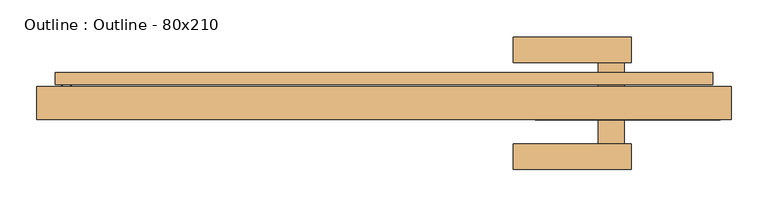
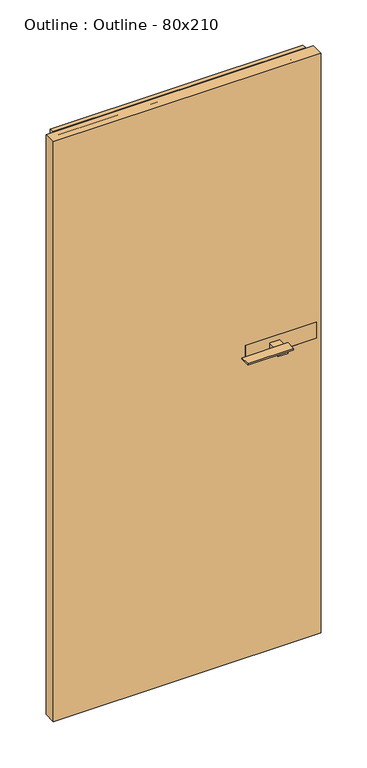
"""IFC4 building model written with IfcOpenShell, lengths in millimetres: door geometry, Outline : Outline - 80x210."""

from ifc_helpers import new_model, si_unit, point, frame, frame_2d, origin, origin_with_axes, place, context, project, spatial, polyline, circle_curve, ellipse_curve, trimmed, segment, composite_curve, outline, extrude, faceted_brep, source, transform, mapped, element, save
from ifc_brep_helpers import plane_surface, cylinder_surface, revolved_surface, advanced_brep


def outline_outline_80x210_fbc687eb(model_context):
    return source(origin(), model_context, "Body", "SolidModel", [
        faceted_brep([(-465.050859, -69.0000057, 0.0), (474.9491774, -69.0000057, 0.0), (474.9491774, -114.0000057, 0.0), (-465.050859, -114.0000057, 0.0), (-465.050859, -69.0000057, 2153.4715377), (474.9491774, -69.0000057, 2153.4715377), (209.9491774, -69.0000057, 1160.0), (209.9491774, -69.0000057, 1100.0), (459.9491774, -69.0000057, 1100.0), (459.9491774, -69.0000057, 1160.0), (474.9491774, -114.0000057, 2153.4715377), (-465.050859, -114.0000057, 2153.4715377), (459.9491774, -114.0000057, 1160.0), (459.9491774, -114.0000057, 1100.0), (209.9491774, -114.0000057, 1100.0), (209.9491774, -114.0000057, 1160.0), (459.9491774, -109.0000057, 1160.0), (459.9491774, -109.0000057, 1100.0), (209.9491774, -109.0000057, 1100.0), (209.9491774, -109.0000057, 1160.0), (209.9491774, -74.0000057, 1160.0), (209.9491774, -74.0000057, 1100.0), (459.9491774, -74.0000057, 1100.0), (459.9491774, -74.0000057, 1160.0)], [[[0, 1, 2, 3]], [[4, 5, 1, 0], [6, 7, 8, 9]], [[5, 10, 2, 1]], [[10, 11, 3, 2], [12, 13, 14, 15]], [[11, 4, 0, 3]], [[16, 17, 13, 12]], [[17, 18, 14, 13]], [[18, 19, 15, 14]], [[19, 16, 12, 15]], [[20, 21, 7, 6]], [[21, 22, 8, 7]], [[22, 23, 9, 8]], [[23, 20, 6, 9]], [[16, 19, 18, 17]], [[20, 23, 22, 21]], [[4, 11, 10, 5]]]),
        extrude(outline(composite_curve([segment(polyline([(-430.3008226, -63.4028961), (-431.202152, -63.4028961)]), True, "CONTINUOUS"), segment(trimmed(circle_curve(frame_2d((-431.202152, -63.1028961)), 0.3), [point((-431.202152, -63.4028961))], [point((-431.202152, -62.8028961))], False, "CARTESIAN"), True, "CONTINUOUS"), segment(polyline([(-431.202152, -62.8028961), (-428.1994931, -62.8028961)]), True, "CONTINUOUS"), segment(trimmed(circle_curve(frame_2d((-428.1994931, -63.1028961)), 0.3), [point((-428.1994931, -62.8028961))], [point((-428.1994931, -63.4028961))], False, "CARTESIAN"), True, "CONTINUOUS"), segment(polyline([(-428.1994931, -63.4028961), (-429.1008226, -63.4028961), (-429.1008226, -66.3028961), (-419.3508226, -66.3028961)]), True, "CONTINUOUS"), segment(trimmed(circle_curve(frame_2d((-418.95753, -66.4067074)), 0.4067627), [point((-419.3508226, -66.3028961))], [point((-418.5508226, -66.4))], False, "CARTESIAN"), True, "CONTINUOUS"), segment(polyline([(-418.5508226, -66.4), (-418.5508226, -67.3028961)]), True, "CONTINUOUS"), segment(trimmed(circle_curve(frame_2d((-425.0508226, -60.8189923)), 9.1810135), [point((-418.5508226, -67.3028961))], [point((-431.5508226, -67.3028961))], False, "CARTESIAN"), True, "CONTINUOUS"), segment(polyline([(-431.5508226, -67.3028961), (-431.5508226, -66.3028961), (-430.3008226, -66.3028961), (-430.3008226, -63.4028961)]), True, "CONTINUOUS")], self_intersect=False), holes=[composite_curve([segment(polyline([(-418.7252505, -67.1028961), (-431.3763946, -67.1028961)]), True, "CONTINUOUS"), segment(trimmed(circle_curve(frame_2d((-425.0508226, -58.1930855)), 10.9269202), [point((-431.3763946, -67.1028961))], [point((-418.7252505, -67.1028961))], True, "CARTESIAN"), True, "CONTINUOUS")], self_intersect=False)]), origin_with_axes(), (0.0, 0.0, 1.0), 2108.4715377),
        faceted_brep([(-398.9008226, -50.9978563, 0.0), (-396.7508226, -51.4226215, 0.0), (-396.7508226, -52.4226215, 0.0), (-402.0508226, -52.4226215, 0.0), (-402.0508226, -51.4226215, 0.0), (-399.8485597, -50.987531, 0.0), (-399.8485597, -50.0, 0.0), (-398.9008226, -50.0, 0.0), (-398.9008226, -50.9978563, 2112.3215377), (-396.7508226, -51.4226215, 2110.1715377), (-396.7508226, -52.4226215, 2110.1715377), (406.6491774, -52.4226215, 2110.1715377), (406.6491774, -52.4226215, 0.0), (411.9491774, -52.4226215, 0.0), (411.9491774, -52.4226215, 2115.4715377), (-402.0508226, -52.4226215, 2115.4715377), (-402.0508226, -51.4226215, 2115.4715377), (-399.8485597, -50.987531, 2113.2692748), (-399.8485597, -50.0, 2113.2692748), (409.7469145, -50.0, 2113.2692748), (409.7469145, -50.0, 0.0), (408.7991774, -50.0, 0.0), (408.7991774, -50.0, 2112.3215377), (-398.9008226, -50.0, 2112.3215377), (406.6491774, -51.4226215, 2110.1715377), (406.6491774, -51.4226215, 0.0), (408.7991774, -50.9978563, 0.0), (409.7469145, -50.987531, 0.0), (411.9491774, -51.4226215, 0.0), (411.9491774, -51.4226215, 2115.4715377), (409.7469145, -50.987531, 2113.2692748), (408.7991774, -50.9978563, 2112.3215377)], [[[0, 1, 2, 3, 4, 5, 6, 7]], [[1, 0, 8, 9]], [[2, 1, 9, 10]], [[3, 2, 10, 11, 12, 13, 14, 15]], [[4, 3, 15, 16]], [[5, 4, 16, 17]], [[6, 5, 17, 18]], [[7, 6, 18, 19, 20, 21, 22, 23]], [[0, 7, 23, 8]], [[11, 24, 25, 12]], [[26, 21, 20, 27, 28, 13, 12, 25]], [[29, 14, 13, 28]], [[19, 30, 27, 20]], [[31, 22, 21, 26]], [[30, 29, 28, 27]], [[24, 31, 26, 25]], [[9, 8, 31, 24]], [[10, 9, 24, 11]], [[16, 15, 14, 29]], [[17, 16, 29, 30]], [[18, 17, 30, 19]], [[8, 23, 22, 31]]]),
        advanced_brep(
        [(-440.0508226, -50.0, 0.0), (-413.5508226, -50.0, 0.0), (-413.5508226, -55.6, 0.0), (-403.7508226, -55.6, 0.0), (-403.7508226, -50.0, 0.0), (-400.9008226, -50.0, 0.0), (-400.8039132, -50.9905187, 0.0), (-402.2508226, -51.2763776, 0.0), (-402.2508226, -52.6407304, 0.0), (-396.5508226, -52.6407304, 0.0), (-396.5508226, -51.2763776, 0.0), (-397.997732, -50.9905187, 0.0), (-397.9008226, -50.0, 0.0), (-395.0508226, -50.0, 0.0), (-395.0508226, -66.0, 0.0), (-440.0508226, -66.0, 0.0), (-397.1508226, -57.6, 0.0), (-397.6508226, -57.1, 0.0), (-413.0508226, -57.1, 0.0), (-413.5508226, -57.6, 0.0), (-413.5508226, -64.0, 0.0), (-413.0508226, -64.5, 0.0), (-397.6508226, -64.5, 0.0), (-397.1508226, -64.0, 0.0), (-420.0508226, -53.2500029, 0.0), (-424.0508226, -53.2500029, 0.0), (-424.0508226, -51.5000029, 0.0), (-430.0508226, -51.5000029, 0.0), (-430.0508226, -63.5000029, 0.0), (-424.0508226, -63.5000029, 0.0), (-424.0508226, -61.7500029, 0.0), (-420.0508226, -61.7500029, 0.0), (-440.0508226, -50.0, 2153.4715377), (449.9491774, -50.0, 2153.4715377), (449.9491774, -50.0, 0.0), (423.4491774, -50.0, 0.0), (423.4491774, -50.0, 2126.9715377), (-413.5508226, -50.0, 2126.9715377), (-413.5508226, -55.6, 2126.9715377), (423.4491774, -55.6, 2126.9715377), (423.4491774, -55.6, 0.0), (413.6491774, -55.6, 0.0), (413.6491774, -55.6, 2117.1715377), (-403.7508226, -55.6, 2117.1715377), (-403.7508226, -50.0, 2117.1715377), (413.6491774, -50.0, 2117.1715377), (413.6491774, -50.0, 0.0), (410.7991774, -50.0, 0.0), (410.7991774, -50.0, 2114.3215377), (-400.9008226, -50.0, 2114.3215377), (-400.8039132, -50.9905187, 2114.2246283), (-402.2508226, -51.2763776, 2115.6715377), (-402.2508226, -52.6407304, 2115.6715377), (412.1491774, -52.6407304, 2115.6715377), (412.1491774, -52.6407304, 0.0), (406.4491774, -52.6407304, 0.0), (406.4491774, -52.6407304, 2109.9715377), (-396.5508226, -52.6407304, 2109.9715377), (-396.5508226, -51.2763776, 2109.9715377), (-397.997732, -50.9905187, 2111.4184471), (-397.9008226, -50.0, 2111.3215377), (407.7991774, -50.0, 2111.3215377), (407.7991774, -50.0, 0.0), (404.9491774, -50.0, 0.0), (404.9491774, -50.0, 2108.4715377), (-395.0508226, -50.0, 2108.4715377), (-395.0508226, -66.0, 2108.4715377), (404.9491774, -66.0, 2108.4715377), (404.9491774, -66.0, 0.0), (449.9491774, -66.0, 0.0), (449.9491774, -66.0, 2153.4715377), (-440.0508226, -66.0, 2153.4715377), (-397.1508226, -57.6, 2110.5715377), (-397.6508226, -57.1, 2111.0715377), (407.5491774, -57.1, 2111.0715377), (407.5491774, -57.1, 0.0), (422.9491774, -57.1, 0.0), (422.9491774, -57.1, 2126.4715377), (-413.0508226, -57.1, 2126.4715377), (-413.5508226, -57.6, 2126.9715377), (-413.5508226, -64.0, 2126.9715377), (-413.0508226, -64.5, 2126.4715377), (422.9491774, -64.5, 2126.4715377), (422.9491774, -64.5, 0.0), (407.5491774, -64.5, 0.0), (407.5491774, -64.5, 2111.0715377), (-397.6508226, -64.5, 2111.0715377), (-397.1508226, -64.0, 2110.5715377), (-420.0508226, -53.2500029, 2133.4715377), (429.9491774, -53.2500029, 2133.4715377), (429.9491774, -53.2500029, 0.0), (433.9491774, -53.2500029, 0.0), (433.9491774, -53.2500029, 2137.4715377), (-424.0508226, -53.2500029, 2137.4715377), (-424.0508226, -51.5000029, 2137.4715377), (433.9491774, -51.5000029, 2137.4715377), (433.9491774, -51.5000029, 0.0), (439.9491774, -51.5000029, 0.0), (439.9491774, -51.5000029, 2143.4715377), (-430.0508226, -51.5000029, 2143.4715377), (-430.0508226, -63.5000029, 2143.4715377), (439.9491774, -63.5000029, 2143.4715377), (439.9491774, -63.5000029, 0.0), (433.9491774, -63.5000029, 0.0), (433.9491774, -63.5000029, 2137.4715377), (-424.0508226, -63.5000029, 2137.4715377), (-424.0508226, -61.7500029, 2137.4715377), (433.9491774, -61.7500029, 2137.4715377), (433.9491774, -61.7500029, 0.0), (429.9491774, -61.7500029, 0.0), (429.9491774, -61.7500029, 2133.4715377), (-420.0508226, -61.7500029, 2133.4715377), (407.8960868, -50.9905187, 0.0), (406.4491774, -51.2763776, 0.0), (412.1491774, -51.2763776, 0.0), (410.702268, -50.9905187, 0.0), (407.0491774, -57.6, 0.0), (407.0491774, -64.0, 0.0), (423.4491774, -64.0, 0.0), (423.4491774, -57.6, 0.0), (410.702268, -50.9905187, 2114.2246283), (412.1491774, -51.2763776, 2115.6715377), (406.4491774, -51.2763776, 2109.9715377), (407.8960868, -50.9905187, 2111.4184471), (407.0491774, -57.6, 2110.5715377), (423.4491774, -57.6, 2126.9715377), (423.4491774, -64.0, 2126.9715377), (407.0491774, -64.0, 2110.5715377)],
        [
            (0, 1),
            (1, 2),
            (2, 3),
            (3, 4),
            (4, 5),
            (5, 6, circle_curve(frame((-400.9008226, -50.5, 0.0), z_axis=(0.0, 0.0, -1.0), x_axis=(0.0, -1.0, 0.0)), 0.5)),
            (6, 7),
            (7, 8),
            (8, 9),
            (9, 10),
            (10, 11),
            (11, 12, circle_curve(frame((-397.9008226, -50.5, 0.0), z_axis=(0.0, 0.0, -1.0), x_axis=(0.0, -1.0, 0.0)), 0.5)),
            (12, 13),
            (13, 14),
            (14, 15),
            (15, 0),
            (16, 17, circle_curve(frame((-397.6508226, -57.6, 0.0), z_axis=(0.0, 0.0, 1.0), x_axis=(0.0, -1.0, 0.0)), 0.5)),
            (17, 18),
            (18, 19, circle_curve(frame((-413.0508226, -57.6, 0.0), z_axis=(0.0, 0.0, 1.0), x_axis=(0.0, -1.0, 0.0)), 0.5)),
            (19, 20),
            (20, 21, circle_curve(frame((-413.0508226, -64.0, 0.0), z_axis=(0.0, 0.0, 1.0), x_axis=(0.0, -1.0, 0.0)), 0.5)),
            (21, 22),
            (22, 23, circle_curve(frame((-397.6508226, -64.0, 0.0), z_axis=(0.0, 0.0, 1.0), x_axis=(0.0, -1.0, 0.0)), 0.5)),
            (23, 16),
            (24, 25),
            (25, 26),
            (26, 27),
            (27, 28),
            (28, 29),
            (29, 30),
            (30, 31),
            (31, 24),
            (0, 32),
            (32, 33),
            (33, 34),
            (34, 35),
            (35, 36),
            (36, 37),
            (37, 1),
            (37, 38),
            (38, 2),
            (38, 39),
            (39, 40),
            (40, 41),
            (41, 42),
            (42, 43),
            (43, 3),
            (43, 44),
            (44, 4),
            (44, 45),
            (45, 46),
            (46, 47),
            (47, 48),
            (48, 49),
            (49, 5),
            (49, 50, ellipse_curve(frame((-400.9008226, -50.5, 2114.3215377), z_axis=(-0.7071067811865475, 0.0, -0.7071067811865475), x_axis=(0.7071067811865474, 0.0, -0.7071067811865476)), 0.7071068, 0.5)),
            (50, 6),
            (50, 51),
            (51, 7),
            (51, 52),
            (52, 8),
            (52, 53),
            (53, 54),
            (54, 55),
            (55, 56),
            (56, 57),
            (57, 9),
            (57, 58),
            (58, 10),
            (58, 59),
            (59, 11),
            (59, 60, ellipse_curve(frame((-397.9008226, -50.5, 2111.3215377), z_axis=(-0.7071067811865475, 0.0, -0.7071067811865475), x_axis=(0.7071067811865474, 0.0, -0.7071067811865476)), 0.7071068, 0.5)),
            (60, 12),
            (60, 61),
            (61, 62),
            (62, 63),
            (63, 64),
            (64, 65),
            (65, 13),
            (65, 66),
            (66, 14),
            (66, 67),
            (67, 68),
            (68, 69),
            (69, 70),
            (70, 71),
            (71, 15),
            (71, 32),
            (16, 72),
            (72, 73, ellipse_curve(frame((-397.6508226, -57.6, 2111.0715377), z_axis=(0.7071067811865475, 0.0, 0.7071067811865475), x_axis=(-0.7071067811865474, 0.0, 0.7071067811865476)), 0.7071068, 0.5)),
            (73, 17),
            (73, 74),
            (74, 75),
            (75, 76),
            (76, 77),
            (77, 78),
            (78, 18),
            (78, 79, ellipse_curve(frame((-413.0508226, -57.6, 2126.4715377), z_axis=(0.7071067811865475, 0.0, 0.7071067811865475), x_axis=(-0.7071067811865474, 0.0, 0.7071067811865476)), 0.7071068, 0.5)),
            (79, 19),
            (79, 80),
            (80, 20),
            (80, 81, ellipse_curve(frame((-413.0508226, -64.0, 2126.4715377), z_axis=(0.7071067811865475, 0.0, 0.7071067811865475), x_axis=(-0.7071067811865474, 0.0, 0.7071067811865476)), 0.7071068, 0.5)),
            (81, 21),
            (81, 82),
            (82, 83),
            (83, 84),
            (84, 85),
            (85, 86),
            (86, 22),
            (86, 87, ellipse_curve(frame((-397.6508226, -64.0, 2111.0715377), z_axis=(0.7071067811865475, 0.0, 0.7071067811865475), x_axis=(-0.7071067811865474, 0.0, 0.7071067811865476)), 0.7071068, 0.5)),
            (87, 23),
            (87, 72),
            (24, 88),
            (88, 89),
            (89, 90),
            (90, 91),
            (91, 92),
            (92, 93),
            (93, 25),
            (93, 94),
            (94, 26),
            (94, 95),
            (95, 96),
            (96, 97),
            (97, 98),
            (98, 99),
            (99, 27),
            (99, 100),
            (100, 28),
            (100, 101),
            (101, 102),
            (102, 103),
            (103, 104),
            (104, 105),
            (105, 29),
            (105, 106),
            (106, 30),
            (106, 107),
            (107, 108),
            (108, 109),
            (109, 110),
            (110, 111),
            (111, 31),
            (111, 88),
            (33, 70),
            (69, 34),
            (68, 63),
            (62, 112, circle_curve(frame((407.7991774, -50.5, 0.0), z_axis=(0.0, 0.0, -1.0), x_axis=(0.0, -1.0, 0.0)), 0.5)),
            (112, 113),
            (113, 55),
            (54, 114),
            (114, 115),
            (115, 47, circle_curve(frame((410.7991774, -50.5, 0.0), z_axis=(0.0, 0.0, -1.0), x_axis=(0.0, -1.0, 0.0)), 0.5)),
            (46, 41),
            (40, 35),
            (116, 117),
            (117, 84, circle_curve(frame((407.5491774, -64.0, 0.0), z_axis=(0.0, 0.0, 1.0), x_axis=(0.0, -1.0, 0.0)), 0.5)),
            (83, 118, circle_curve(frame((422.9491774, -64.0, 0.0), z_axis=(0.0, 0.0, 1.0), x_axis=(0.0, -1.0, 0.0)), 0.5)),
            (118, 119),
            (119, 76, circle_curve(frame((422.9491774, -57.6, 0.0), z_axis=(0.0, 0.0, 1.0), x_axis=(0.0, -1.0, 0.0)), 0.5)),
            (75, 116, circle_curve(frame((407.5491774, -57.6, 0.0), z_axis=(0.0, 0.0, 1.0), x_axis=(0.0, -1.0, 0.0)), 0.5)),
            (90, 109),
            (108, 103),
            (102, 97),
            (96, 91),
            (39, 36),
            (45, 42),
            (120, 48, ellipse_curve(frame((410.7991774, -50.5, 2114.3215377), z_axis=(0.7071067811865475, 0.0, -0.7071067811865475), x_axis=(0.7071067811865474, 0.0, 0.7071067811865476)), 0.7071068, 0.5)),
            (115, 120),
            (53, 121),
            (121, 114),
            (122, 56),
            (113, 122),
            (61, 123, ellipse_curve(frame((407.7991774, -50.5, 2111.3215377), z_axis=(0.7071067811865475, 0.0, -0.7071067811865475), x_axis=(0.7071067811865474, 0.0, 0.7071067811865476)), 0.7071068, 0.5)),
            (123, 112),
            (67, 64),
            (74, 124, ellipse_curve(frame((407.5491774, -57.6, 2111.0715377), z_axis=(-0.7071067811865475, 0.0, 0.7071067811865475), x_axis=(-0.7071067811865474, 0.0, -0.7071067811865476)), 0.7071068, 0.5)),
            (124, 116),
            (125, 77, ellipse_curve(frame((422.9491774, -57.6, 2126.4715377), z_axis=(-0.7071067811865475, 0.0, 0.7071067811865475), x_axis=(-0.7071067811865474, 0.0, -0.7071067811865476)), 0.7071068, 0.5)),
            (119, 125),
            (82, 126, ellipse_curve(frame((422.9491774, -64.0, 2126.4715377), z_axis=(-0.7071067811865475, 0.0, 0.7071067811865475), x_axis=(-0.7071067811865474, 0.0, -0.7071067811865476)), 0.7071068, 0.5)),
            (126, 118),
            (127, 85, ellipse_curve(frame((407.5491774, -64.0, 2111.0715377), z_axis=(-0.7071067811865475, 0.0, 0.7071067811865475), x_axis=(-0.7071067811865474, 0.0, -0.7071067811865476)), 0.7071068, 0.5)),
            (117, 127),
            (89, 110),
            (95, 92),
            (101, 98),
            (107, 104),
            (123, 122),
            (121, 120),
            (124, 127),
            (126, 125),
            (120, 50),
            (121, 51),
            (122, 58),
            (123, 59),
            (72, 124),
            (125, 79),
            (126, 80),
            (127, 87),
        ],
        [
            plane_surface(frame((-395.0508226, -50.0, 0.0), z_axis=(0.0, 0.0, -1.0), x_axis=(0.0, -1.0, 0.0))),
            plane_surface(frame((-440.0508226, -50.0, 0.0), z_axis=(0.0, 1.0, 0.0), x_axis=(0.0, 0.0, 1.0))),
            plane_surface(frame((-413.5508226, -50.0, 0.0), z_axis=(1.0, 0.0, 0.0), x_axis=(0.0, 0.0, 1.0))),
            plane_surface(frame((-413.5508226, -55.6, 0.0), z_axis=(0.0, 1.0, 0.0), x_axis=(0.0, 0.0, 1.0))),
            plane_surface(frame((-403.7508226, -55.6, 0.0), z_axis=(-1.0, 0.0, 0.0), x_axis=(0.0, 0.0, 1.0))),
            plane_surface(frame((-403.7508226, -50.0, 0.0), z_axis=(0.0, 1.0, 0.0), x_axis=(0.0, 0.0, 1.0))),
            cylinder_surface(frame((-400.9008226, -50.5, 0.0), z_axis=(0.0, 0.0, -1.0), x_axis=(0.0, -1.0, 0.0)), 0.5),
            plane_surface(frame((-400.8039132, -50.9905187, 0.0), z_axis=(0.1938188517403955, -0.9810373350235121, 0.0), x_axis=(0.0, 0.0, 1.0))),
            plane_surface(frame((-402.2508226, -51.2763776, 0.0), z_axis=(1.0, 0.0, 0.0), x_axis=(0.0, 0.0, 1.0))),
            plane_surface(frame((-402.2508226, -52.6407304, 0.0), z_axis=(0.0, 1.0, 0.0), x_axis=(0.0, 0.0, 1.0))),
            plane_surface(frame((-396.5508226, -52.6407304, 0.0), z_axis=(-1.0, 0.0, 0.0), x_axis=(0.0, 0.0, 1.0))),
            plane_surface(frame((-396.5508226, -51.2763776, 0.0), z_axis=(-0.19381885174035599, -0.9810373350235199, 0.0), x_axis=(0.0, 0.0, 1.0))),
            cylinder_surface(frame((-397.9008226, -50.5, 0.0), z_axis=(0.0, 0.0, -1.0), x_axis=(0.0, -1.0, 0.0)), 0.5),
            plane_surface(frame((-397.9008226, -50.0, 0.0), z_axis=(0.0, 1.0, 0.0), x_axis=(0.0, 0.0, 1.0))),
            plane_surface(frame((-395.0508226, -50.0, 0.0), z_axis=(1.0, 0.0, 0.0), x_axis=(0.0, 0.0, 1.0))),
            plane_surface(frame((-395.0508226, -66.0, 0.0), z_axis=(0.0, -1.0, 0.0), x_axis=(0.0, 0.0, 1.0))),
            plane_surface(frame((-440.0508226, -66.0, 0.0), z_axis=(-1.0, 0.0, 0.0), x_axis=(0.0, 0.0, 1.0))),
            revolved_surface(polyline([(-397.6508226, -58.1, 2111.5715377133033), (-397.6508226, -58.1, 0.0)]), (-397.6508226, -57.6, 0.0), (0.0, 0.0, 1.0)),
            plane_surface(frame((-397.6508226, -57.1, 0.0), z_axis=(0.0, -1.0, 0.0), x_axis=(0.0, 0.0, 1.0))),
            revolved_surface(polyline([(-413.0508226, -58.1, 2126.9715377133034), (-413.0508226, -58.1, 0.0)]), (-413.0508226, -57.6, 0.0), (0.0, 0.0, 1.0)),
            plane_surface(frame((-413.5508226, -57.6, 0.0), z_axis=(1.0, 0.0, 0.0), x_axis=(0.0, 0.0, 1.0))),
            revolved_surface(polyline([(-413.0508226, -64.5, 2126.9715377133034), (-413.0508226, -64.5, 0.0)]), (-413.0508226, -64.0, 0.0), (0.0, 0.0, 1.0)),
            plane_surface(frame((-413.0508226, -64.5, 0.0), z_axis=(0.0, 1.0, 0.0), x_axis=(0.0, 0.0, 1.0))),
            revolved_surface(polyline([(-397.6508226, -64.5, 2111.5715377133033), (-397.6508226, -64.5, 0.0)]), (-397.6508226, -64.0, 0.0), (0.0, 0.0, 1.0)),
            plane_surface(frame((-397.1508226, -64.0, 0.0), z_axis=(-1.0, 0.0, 0.0), x_axis=(0.0, 0.0, 1.0))),
            plane_surface(frame((-420.0508226, -53.2500029, 0.0), z_axis=(0.0, -1.0, 0.0), x_axis=(0.0, 0.0, 1.0))),
            plane_surface(frame((-424.0508226, -53.2500029, 0.0), z_axis=(-1.0, 0.0, 0.0), x_axis=(0.0, 0.0, 1.0))),
            plane_surface(frame((-424.0508226, -51.5000029, 0.0), z_axis=(0.0, -1.0, 0.0), x_axis=(0.0, 0.0, 1.0))),
            plane_surface(frame((-430.0508226, -51.5000029, 0.0), z_axis=(1.0, 0.0, 0.0), x_axis=(0.0, 0.0, 1.0))),
            plane_surface(frame((-430.0508226, -63.5000029, 0.0), z_axis=(0.0, 1.0, 0.0), x_axis=(0.0, 0.0, 1.0))),
            plane_surface(frame((-424.0508226, -63.5000029, 0.0), z_axis=(-1.0, 0.0, 0.0), x_axis=(0.0, 0.0, 1.0))),
            plane_surface(frame((-424.0508226, -61.7500029, 0.0), z_axis=(0.0, 1.0, 0.0), x_axis=(0.0, 0.0, 1.0))),
            plane_surface(frame((-420.0508226, -61.7500029, 0.0), z_axis=(-1.0, 0.0, 0.0), x_axis=(0.0, 0.0, 1.0))),
            plane_surface(frame((449.9491774, -66.0, 2153.4715377), z_axis=(1.0, 0.0, 0.0), x_axis=(0.0, 0.0, -1.0))),
            plane_surface(frame((404.9491774, -50.0, 0.0), z_axis=(0.0, 0.0, -1.0), x_axis=(0.0, -1.0, 0.0))),
            plane_surface(frame((423.4491774, -50.0, 2126.9715377), z_axis=(-1.0, 0.0, 0.0), x_axis=(0.0, 0.0, -1.0))),
            plane_surface(frame((413.6491774, -55.6, 2117.1715377), z_axis=(1.0, 0.0, 0.0), x_axis=(0.0, 0.0, -1.0))),
            cylinder_surface(frame((410.7991774, -50.5, 2108.4715377), z_axis=(0.0, 0.0, 1.0), x_axis=(0.0, -1.0, 0.0)), 0.5),
            plane_surface(frame((412.1491774, -51.2763776, 2115.6715377), z_axis=(-1.0, 0.0, 0.0), x_axis=(0.0, 0.0, -1.0))),
            plane_surface(frame((406.4491774, -52.6407304, 2109.9715377), z_axis=(1.0, 0.0, 0.0), x_axis=(0.0, 0.0, -1.0))),
            cylinder_surface(frame((407.7991774, -50.5, 2108.4715377), z_axis=(0.0, 0.0, 1.0), x_axis=(0.0, -1.0, 0.0)), 0.5),
            plane_surface(frame((404.9491774, -50.0, 2108.4715377), z_axis=(-1.0, 0.0, 0.0), x_axis=(0.0, 0.0, -1.0))),
            revolved_surface(polyline([(407.5491774, -58.1, 0.0), (407.5491774, -58.1, 2111.5715377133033)]), (407.5491774, -57.6, 2108.4715377), (0.0, 0.0, -1.0)),
            revolved_surface(polyline([(422.9491774, -58.1, 0.0), (422.9491774, -58.1, 2126.9715377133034)]), (422.9491774, -57.6, 2108.4715377), (0.0, 0.0, -1.0)),
            revolved_surface(polyline([(422.9491774, -64.5, 0.0), (422.9491774, -64.5, 2126.9715377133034)]), (422.9491774, -64.0, 2108.4715377), (0.0, 0.0, -1.0)),
            revolved_surface(polyline([(407.5491774, -64.5, 0.0), (407.5491774, -64.5, 2111.5715377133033)]), (407.5491774, -64.0, 2108.4715377), (0.0, 0.0, -1.0)),
            plane_surface(frame((429.9491774, -61.7500029, 2133.4715377), z_axis=(1.0, 0.0, 0.0), x_axis=(0.0, 0.0, -1.0))),
            plane_surface(frame((433.9491774, -53.2500029, 2137.4715377), z_axis=(1.0, 0.0, 0.0), x_axis=(0.0, 0.0, -1.0))),
            plane_surface(frame((439.9491774, -51.5000029, 2143.4715377), z_axis=(-1.0, 0.0, 0.0), x_axis=(0.0, 0.0, -1.0))),
            plane_surface(frame((433.9491774, -63.5000029, 2137.4715377), z_axis=(1.0, 0.0, 0.0), x_axis=(0.0, 0.0, -1.0))),
            plane_surface(frame((406.4491774, -51.2763776, 2109.9715377), z_axis=(0.19381885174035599, -0.9810373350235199, 0.0), x_axis=(0.0, 0.0, -1.0))),
            plane_surface(frame((410.702268, -50.9905187, 2114.2246283), z_axis=(-0.1938188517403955, -0.9810373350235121, 0.0), x_axis=(0.0, 0.0, -1.0))),
            plane_surface(frame((407.0491774, -64.0, 2110.5715377), z_axis=(1.0, 0.0, 0.0), x_axis=(0.0, 0.0, -1.0))),
            plane_surface(frame((423.4491774, -57.6, 2126.9715377), z_axis=(-1.0, 0.0, 0.0), x_axis=(0.0, 0.0, -1.0))),
            plane_surface(frame((-413.5508226, -50.0, 2126.9715377), z_axis=(0.0, 0.0, -1.0), x_axis=(1.0, 0.0, 0.0))),
            plane_surface(frame((-403.7508226, -55.6, 2117.1715377), z_axis=(0.0, 0.0, 1.0), x_axis=(1.0, 0.0, 0.0))),
            cylinder_surface(frame((-395.0508226, -50.5, 2114.3215377), z_axis=(-1.0, 0.0, 0.0), x_axis=(0.0, -1.0, 0.0)), 0.5),
            plane_surface(frame((-400.8039132, -50.9905187, 2114.2246283), z_axis=(0.0, -0.9810373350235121, -0.1938188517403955), x_axis=(1.0, 0.0, 0.0))),
            plane_surface(frame((-402.2508226, -51.2763776, 2115.6715377), z_axis=(0.0, 0.0, -1.0), x_axis=(1.0, 0.0, 0.0))),
            plane_surface(frame((-396.5508226, -52.6407304, 2109.9715377), z_axis=(0.0, 0.0, 1.0), x_axis=(1.0, 0.0, 0.0))),
            plane_surface(frame((-396.5508226, -51.2763776, 2109.9715377), z_axis=(0.0, -0.9810373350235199, 0.19381885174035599), x_axis=(1.0, 0.0, 0.0))),
            cylinder_surface(frame((-395.0508226, -50.5, 2111.3215377), z_axis=(-1.0, 0.0, 0.0), x_axis=(0.0, -1.0, 0.0)), 0.5),
            plane_surface(frame((-395.0508226, -50.0, 2108.4715377), z_axis=(0.0, 0.0, -1.0), x_axis=(1.0, 0.0, 0.0))),
            plane_surface(frame((-440.0508226, -66.0, 2153.4715377), z_axis=(0.0, 0.0, 1.0), x_axis=(1.0, 0.0, 0.0))),
            revolved_surface(polyline([(408.0491774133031, -58.1, 2111.0715377), (-398.15082261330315, -58.1, 2111.0715377)]), (-395.0508226, -57.6, 2111.0715377), (1.0, 0.0, 0.0)),
            revolved_surface(polyline([(423.44917741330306, -58.1, 2126.4715377), (-413.5508226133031, -58.1, 2126.4715377)]), (-395.0508226, -57.6, 2126.4715377), (1.0, 0.0, 0.0)),
            plane_surface(frame((-413.5508226, -57.6, 2126.9715377), z_axis=(0.0, 0.0, -1.0), x_axis=(1.0, 0.0, 0.0))),
            revolved_surface(polyline([(423.44917741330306, -64.5, 2126.4715377), (-413.5508226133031, -64.5, 2126.4715377)]), (-395.0508226, -64.0, 2126.4715377), (1.0, 0.0, 0.0)),
            revolved_surface(polyline([(408.0491774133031, -64.5, 2111.0715377), (-398.15082261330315, -64.5, 2111.0715377)]), (-395.0508226, -64.0, 2111.0715377), (1.0, 0.0, 0.0)),
            plane_surface(frame((-397.1508226, -64.0, 2110.5715377), z_axis=(0.0, 0.0, 1.0), x_axis=(1.0, 0.0, 0.0))),
            plane_surface(frame((-424.0508226, -53.2500029, 2137.4715377), z_axis=(0.0, 0.0, 1.0), x_axis=(1.0, 0.0, 0.0))),
            plane_surface(frame((-430.0508226, -51.5000029, 2143.4715377), z_axis=(0.0, 0.0, -1.0), x_axis=(1.0, 0.0, 0.0))),
            plane_surface(frame((-424.0508226, -63.5000029, 2137.4715377), z_axis=(0.0, 0.0, 1.0), x_axis=(1.0, 0.0, 0.0))),
            plane_surface(frame((-420.0508226, -61.7500029, 2133.4715377), z_axis=(0.0, 0.0, 1.0), x_axis=(1.0, 0.0, 0.0))),
        ],
        [
            (0, [[1, 2, 3, 4, 5, 6, 7, 8, 9, 10, 11, 12, 13, 14, 15, 16], [17, 18, 19, 20, 21, 22, 23, 24], [25, 26, 27, 28, 29, 30, 31, 32]]),
            (1, [[-1, 33, 34, 35, 36, 37, 38, 39]]),
            (2, [[-2, -39, 40, 41]]),
            (3, [[-3, -41, 42, 43, 44, 45, 46, 47]]),
            (4, [[-4, -47, 48, 49]]),
            (5, [[-5, -49, 50, 51, 52, 53, 54, 55]]),
            (6, [[-6, -55, 56, 57]]),
            (7, [[-7, -57, 58, 59]]),
            (8, [[-8, -59, 60, 61]]),
            (9, [[-9, -61, 62, 63, 64, 65, 66, 67]]),
            (10, [[-10, -67, 68, 69]]),
            (11, [[-11, -69, 70, 71]]),
            (12, [[-12, -71, 72, 73]]),
            (13, [[-13, -73, 74, 75, 76, 77, 78, 79]]),
            (14, [[-14, -79, 80, 81]]),
            (15, [[-15, -81, 82, 83, 84, 85, 86, 87]]),
            (16, [[-16, -87, 88, -33]]),
            (17, [[-17, 89, 90, 91]]),
            (18, [[-18, -91, 92, 93, 94, 95, 96, 97]]),
            (19, [[-19, -97, 98, 99]]),
            (20, [[-20, -99, 100, 101]]),
            (21, [[-21, -101, 102, 103]]),
            (22, [[-22, -103, 104, 105, 106, 107, 108, 109]]),
            (23, [[-23, -109, 110, 111]]),
            (24, [[-24, -111, 112, -89]]),
            (25, [[-25, 113, 114, 115, 116, 117, 118, 119]]),
            (26, [[-26, -119, 120, 121]]),
            (27, [[-27, -121, 122, 123, 124, 125, 126, 127]]),
            (28, [[-28, -127, 128, 129]]),
            (29, [[-29, -129, 130, 131, 132, 133, 134, 135]]),
            (30, [[-30, -135, 136, 137]]),
            (31, [[-31, -137, 138, 139, 140, 141, 142, 143]]),
            (32, [[-32, -143, 144, -113]]),
            (33, [[145, -85, 146, -35]]),
            (34, [[-146, -84, 147, -76, 148, 149, 150, -64, 151, 152, 153, -52, 154, -44, 155, -36], [156, 157, -106, 158, 159, 160, -94, 161], [162, -140, 163, -132, 164, -124, 165, -116]]),
            (35, [[166, -37, -155, -43]]),
            (36, [[167, -45, -154, -51]]),
            (37, [[168, -53, -153, 169]]),
            (38, [[170, 171, -151, -63]]),
            (39, [[172, -65, -150, 173]]),
            (40, [[174, 175, -148, -75]]),
            (41, [[176, -77, -147, -83]]),
            (42, [[177, 178, -161, -93]]),
            (43, [[179, -95, -160, 180]]),
            (44, [[181, 182, -158, -105]]),
            (45, [[183, -107, -157, 184]]),
            (46, [[185, -141, -162, -115]]),
            (47, [[186, -117, -165, -123]]),
            (48, [[187, -125, -164, -131]]),
            (49, [[188, -133, -163, -139]]),
            (50, [[189, -173, -149, -175]]),
            (51, [[190, -169, -152, -171]]),
            (52, [[191, -184, -156, -178]]),
            (53, [[192, -180, -159, -182]]),
            (54, [[-40, -38, -166, -42]]),
            (55, [[-48, -46, -167, -50]]),
            (56, [[-56, -54, -168, 193]]),
            (57, [[-58, -193, -190, 194]]),
            (58, [[-60, -194, -170, -62]]),
            (59, [[-68, -66, -172, 195]]),
            (60, [[-70, -195, -189, 196]]),
            (61, [[-72, -196, -174, -74]]),
            (62, [[-80, -78, -176, -82]]),
            (63, [[-88, -86, -145, -34]]),
            (64, [[-90, 197, -177, -92]]),
            (65, [[-98, -96, -179, 198]]),
            (66, [[-100, -198, -192, 199]]),
            (67, [[-102, -199, -181, -104]]),
            (68, [[-110, -108, -183, 200]]),
            (69, [[-112, -200, -191, -197]]),
            (70, [[-120, -118, -186, -122]]),
            (71, [[-128, -126, -187, -130]]),
            (72, [[-136, -134, -188, -138]]),
            (73, [[-144, -142, -185, -114]]),
        ],
    ),
        extrude(outline(polyline([(339.9491774, -146.5000057), (339.9491774, -181.5000057), (179.9491774, -181.5000057), (179.9491774, -146.5000057), (339.9491774, -146.5000057)])), frame((0.0, 0.0, 1140.0), z_axis=(0.0, 0.0, 1.0), x_axis=(1.0, 0.0, 0.0)), (0.0, 0.0, 1.0), 5.0),
        extrude(outline(polyline([(339.9491774, -1.5000057), (339.9491774, -36.5000057), (179.9491774, -36.5000057), (179.9491774, -1.5000057), (339.9491774, -1.5000057)])), frame((0.0, 0.0, 1140.0), z_axis=(0.0, 0.0, 1.0), x_axis=(1.0, 0.0, 0.0)), (0.0, 0.0, 1.0), 5.0),
        extrude(outline(polyline([(294.9491774, -19.0000057), (329.9491774, -19.0000057), (329.9491774, -69.0000057), (294.9491774, -69.0000057), (294.9491774, -19.0000057)])), frame((0.0, 0.0, 1120.0), z_axis=(0.0, 0.0, 1.0), x_axis=(1.0, 0.0, 0.0)), (0.0, 0.0, 1.0), 20.0),
        extrude(outline(polyline([(329.9491774, -164.0000057), (294.9491774, -164.0000057), (294.9491774, -114.0000057), (329.9491774, -114.0000057), (329.9491774, -164.0000057)])), frame((0.0, 0.0, 1120.0), z_axis=(0.0, 0.0, 1.0), x_axis=(1.0, 0.0, 0.0)), (0.0, 0.0, 1.0), 20.0),
        extrude(outline(polyline([(1160.0, 459.9491774), (1160.0, 209.9491774), (1100.0, 209.9491774), (1100.0, 459.9491774), (1160.0, 459.9491774)]), holes=[composite_curve([segment(trimmed(circle_curve(frame_2d((1130.0, 319.9491774)), 8.1), [point((1130.0, 328.0491774))], [point((1130.0, 311.8491774))], True, "CARTESIAN"), True, "CONTINUOUS"), segment(trimmed(circle_curve(frame_2d((1130.0, 319.9491774)), 8.1), [point((1130.0, 311.8491774))], [point((1130.0, 328.0491774))], True, "CARTESIAN"), True, "CONTINUOUS")], self_intersect=False), polyline([(1152.5, 427.9491774), (1152.5, 442.9491774), (1112.5, 442.9491774), (1112.5, 427.9491774), (1152.5, 427.9491774)])]), frame((0.0, -74.0000057, 0.0), z_axis=(0.0, 1.0, 0.0), x_axis=(0.0, 0.0, 1.0)), (0.0, 0.0, 1.0), 5.0),
        extrude(outline(polyline([(1160.0, 459.9491774), (1160.0, 209.9491774), (1100.0, 209.9491774), (1100.0, 459.9491774), (1160.0, 459.9491774)]), holes=[composite_curve([segment(trimmed(circle_curve(frame_2d((1130.0, 319.9491774)), 8.1), [point((1130.0, 311.8491774))], [point((1130.0, 328.0491774))], True, "CARTESIAN"), True, "CONTINUOUS"), segment(trimmed(circle_curve(frame_2d((1130.0, 319.9491774)), 8.1), [point((1130.0, 328.0491774))], [point((1130.0, 311.8491774))], True, "CARTESIAN"), True, "CONTINUOUS")], self_intersect=False)]), frame((0.0, -114.0000057, 0.0), z_axis=(0.0, 1.0, 0.0), x_axis=(0.0, 0.0, 1.0)), (0.0, 0.0, 1.0), 5.0),
    ])


if __name__ == "__main__":
    model = new_model("IFC4")
    model_context = context("Model", 3, world=origin())
    ifc_project = project(units=[si_unit("LENGTHUNIT", "METRE", prefix="MILLI")], contexts=[model_context])
    site = spatial("IfcSite", under=ifc_project)
    building = spatial("IfcBuilding", under=site)
    placement = place(None, origin())
    outline_outline_80x210_shape = outline_outline_80x210_fbc687eb(model_context)
    element("IfcDoor", 1, ObjectType="Outline : Outline - 80x210", at=placement, inside=building, context=model_context, shape_type="MappedRepresentation", body=[
        mapped(outline_outline_80x210_shape, transform((0.0, 0.0, 0.0), x_axis=(1.0, 0.0, 0.0), y_axis=(0.0, 1.0, 0.0), z_axis=(0.0, 0.0, 1.0))),
    ])
    save(model, "model.ifc")
